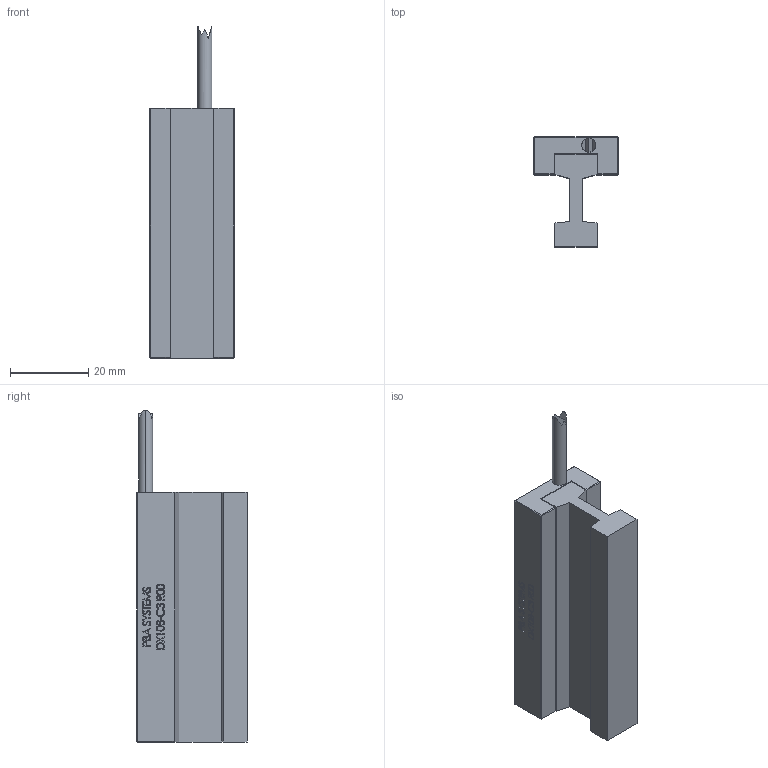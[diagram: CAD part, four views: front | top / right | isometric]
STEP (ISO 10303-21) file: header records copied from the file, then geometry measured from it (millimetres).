
FILE_DESCRIPTION (( 'STEP AP203' ), '1' );
FILE_NAME ('DX10B-C3-000.STEP', '2015-05-28T01:05:59', ( 'PBAsystems' ), ( '' ), 'SwSTEP 2.0', 'SolidWorks 2013', '' );
FILE_SCHEMA (( 'CONFIG_CONTROL_DESIGN' ));
Length unit declared in the file: millimetre
Products named in the file (4): DX10B-C3-001_CUSTOMER; CBL_MTR_HALL_SS_5C_SA (#2935-1); DX10B-CX-002_C3; DX10B-C3-000
Assembly tree (3 placements, depth 2):
  DX10B-C3-000
    DX10B-C3-001_CUSTOMER
    CBL_MTR_HALL_SS_5C_SA (#2935-1)
    DX10B-CX-002_C3
Bounding box: 21.6 x 28.19 x 85 mm (x, y, z)
Volume: 20192.2 mm3; surface area: 11368.9 mm2
Topology: 3 solids, 3 shells, 688 faces, 1795 edges, 1170 vertices
Faces by surface type: plane 374, bspline 262, cone 32, cylinder 20
Entity records: 35595 total; most frequent: CARTESIAN_POINT 20169, ORIENTED_EDGE 3558, DIRECTION 2165, EDGE_CURVE 1779, VECTOR 1193, LINE 1193, VERTEX_POINT 1170, EDGE_LOOP 761
